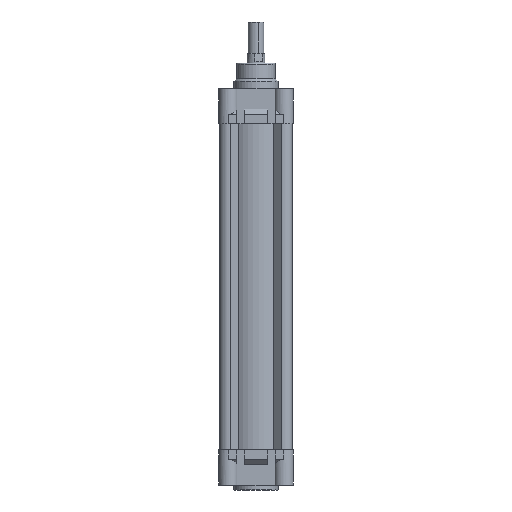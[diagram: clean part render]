
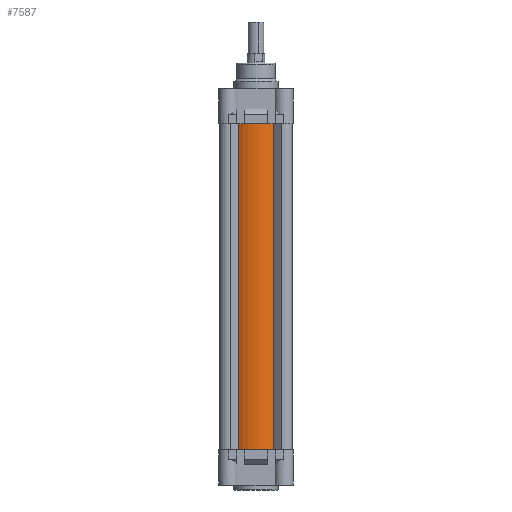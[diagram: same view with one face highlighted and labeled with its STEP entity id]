
A CAD part, front view. The second image highlights one B-rep face of the part: STEP entity #7587.
In plain terms, the highlighted cylindrical face has radius 34 mm (diameter 68 mm), a partial arc.
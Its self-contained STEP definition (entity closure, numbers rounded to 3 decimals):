
#346 = AXIS2_PLACEMENT_3D ( 'NONE', #13471, #13561, #3459 ) ;
#479 = VERTEX_POINT ( 'NONE', #16053 ) ;
#688 = CARTESIAN_POINT ( 'NONE',  ( 55.319, 8.357, 0. ) ) ;
#985 = ORIENTED_EDGE ( 'NONE', *, *, #11769, .T. ) ;
#1248 = DIRECTION ( 'NONE',  ( 0., 0., -1. ) ) ;
#1291 = DIRECTION ( 'NONE',  ( 0., 0., 1. ) ) ;
#1356 = AXIS2_PLACEMENT_3D ( 'NONE', #18226, #1291, #2964 ) ;
#1665 = DIRECTION ( 'NONE',  ( 0., 0., -1. ) ) ;
#2451 = VECTOR ( 'NONE', #1665, 1000. ) ;
#2964 = DIRECTION ( 'NONE',  ( 1., 0., 0. ) ) ;
#3459 = DIRECTION ( 'NONE',  ( 1., 0., 0. ) ) ;
#3750 = ORIENTED_EDGE ( 'NONE', *, *, #5044, .F. ) ;
#3771 = ORIENTED_EDGE ( 'NONE', *, *, #17756, .F. ) ;
#3933 = CIRCLE ( 'NONE', #346, 34. ) ;
#5044 = EDGE_CURVE ( 'NONE', #479, #8007, #12198, .T. ) ;
#5853 = LINE ( 'NONE', #20569, #2451 ) ;
#7275 = ORIENTED_EDGE ( 'NONE', *, *, #10481, .T. ) ;
#7587 = ADVANCED_FACE ( 'NONE', ( #19347 ), #12304, .T. ) ;
#8007 = VERTEX_POINT ( 'NONE', #688 ) ;
#8153 = CARTESIAN_POINT ( 'NONE',  ( 37., 37., 333. ) ) ;
#8220 = DIRECTION ( 'NONE',  ( 0., 0., -1. ) ) ;
#9579 = CARTESIAN_POINT ( 'NONE',  ( 55.319, 8.357, 333. ) ) ;
#10481 = EDGE_CURVE ( 'NONE', #13582, #8007, #17441, .T. ) ;
#11769 = EDGE_CURVE ( 'NONE', #14179, #13582, #5853, .T. ) ;
#12198 = LINE ( 'NONE', #9579, #16062 ) ;
#12304 = CYLINDRICAL_SURFACE ( 'NONE', #20995, 34. ) ;
#13471 = CARTESIAN_POINT ( 'NONE',  ( 37., 37., 333. ) ) ;
#13561 = DIRECTION ( 'NONE',  ( 0., 0., 1. ) ) ;
#13582 = VERTEX_POINT ( 'NONE', #17284 ) ;
#14179 = VERTEX_POINT ( 'NONE', #19529 ) ;
#14959 = DIRECTION ( 'NONE',  ( -1., 0., 0. ) ) ;
#16053 = CARTESIAN_POINT ( 'NONE',  ( 55.319, 8.357, 333. ) ) ;
#16062 = VECTOR ( 'NONE', #1248, 1000. ) ;
#16347 = EDGE_LOOP ( 'NONE', ( #7275, #3750, #3771, #985 ) ) ;
#17284 = CARTESIAN_POINT ( 'NONE',  ( 18.681, 8.357, 0. ) ) ;
#17441 = CIRCLE ( 'NONE', #1356, 34. ) ;
#17756 = EDGE_CURVE ( 'NONE', #14179, #479, #3933, .T. ) ;
#18226 = CARTESIAN_POINT ( 'NONE',  ( 37., 37., 0. ) ) ;
#19347 = FACE_OUTER_BOUND ( 'NONE', #16347, .T. ) ;
#19529 = CARTESIAN_POINT ( 'NONE',  ( 18.681, 8.357, 333. ) ) ;
#20569 = CARTESIAN_POINT ( 'NONE',  ( 18.681, 8.357, 333. ) ) ;
#20995 = AXIS2_PLACEMENT_3D ( 'NONE', #8153, #8220, #14959 ) ;
